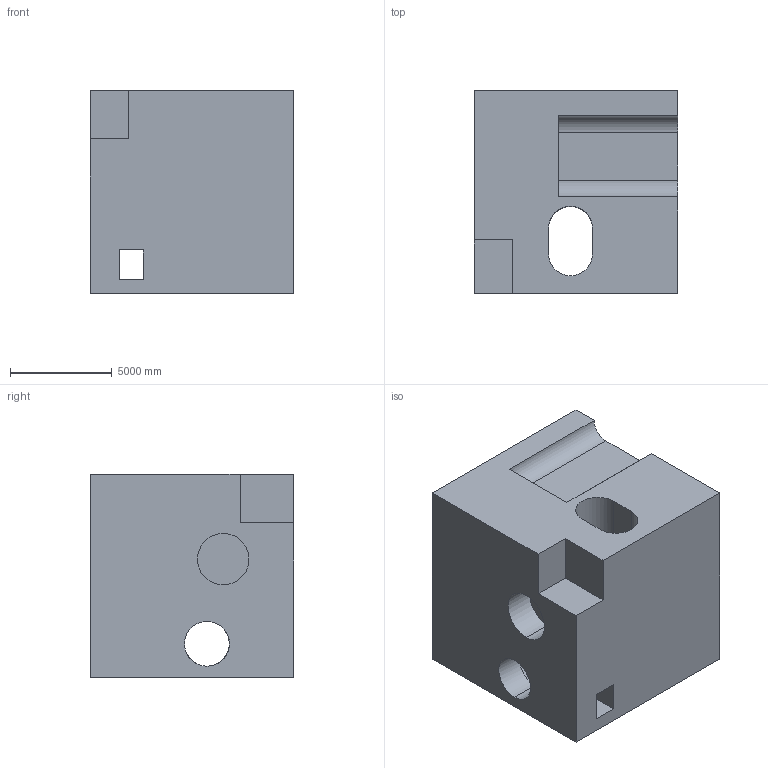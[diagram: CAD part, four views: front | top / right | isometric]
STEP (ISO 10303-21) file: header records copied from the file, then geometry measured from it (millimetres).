
FILE_DESCRIPTION (( 'STEP AP203' ), '1' );
FILE_NAME ('1513.STEP', '2022-08-18T14:57:22', ( 'user' ), ( '' ), 'SwSTEP 2.0', 'SolidWorks 2021', '' );
FILE_SCHEMA (( 'CONFIG_CONTROL_DESIGN' ));
Length unit declared in the file: centimetre
Products named in the file (1): 1513
Bounding box: 10000 x 10000 x 10000 mm (x, y, z)
Volume: 849841821292.9 mm3; surface area: 782504594.7 mm2
Topology: 1 solids, 1 shells, 32 faces, 93 edges, 62 vertices
Faces by surface type: plane 22, cylinder 10
Entity records: 1530 total; most frequent: CARTESIAN_POINT 574, ORIENTED_EDGE 186, DIRECTION 175, EDGE_CURVE 93, VECTOR 65, LINE 65, VERTEX_POINT 62, AXIS2_PLACEMENT_3D 55
